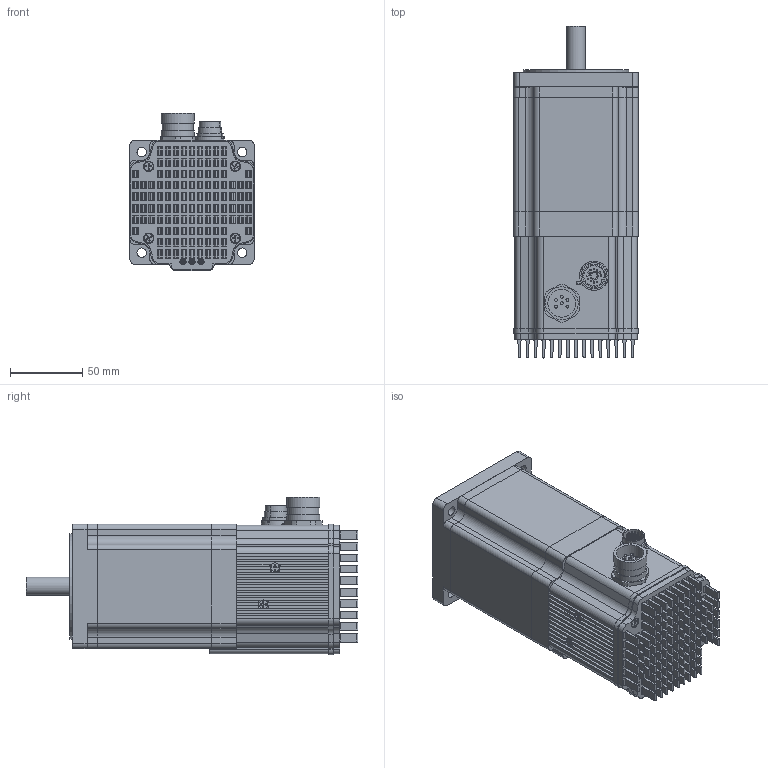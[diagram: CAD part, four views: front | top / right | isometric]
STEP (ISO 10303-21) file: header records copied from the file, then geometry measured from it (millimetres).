
FILE_DESCRIPTION(/* description */ ('Alibre Inc.'),/* implementation_level */ '2;1');
FILE_NAME(/* name */ 'export0',/* time_stamp */ '2018-01-31T12:48:37-08:00',/* author */ (''),/* organization */ (''),/* preprocessor_version */ 'ST-DEVELOPER v14',/* originating_system */ 'Alibre',/* authorisation */ '');
FILE_SCHEMA (('AUTOMOTIVE_DESIGN'));
Length unit declared in the file: centimetre
Bounding box: 86.12 x 229.57 x 108.94 mm (x, y, z)
Volume: 876584.6 mm3; surface area: 189166.2 mm2
Topology: 37 solids, 38 shells, 3052 faces, 8120 edges, 5349 vertices
Faces by surface type: plane 1947, cylinder 979, cone 44, torus 43, sphere 26, bspline 13
Full cylindrical faces by diameter (mm): 0.483 x3, 0.61 x2, 1 x19, 1.981 x6, 2.156 x5, 2.54 x3, 2.616 x8, 2.718 x3, 3.175 x11, 3.81 x3, 4.089 x8, 6.5 x4, 9.525 x2, 9.982 x2, 12.7 x1, 17.094 x1, 19.152 x1, 20.218 x2, 20.32 x1, 21.412 x1, 22.86 x2, 25.298 x1, 44.323 x1, 52.324 x1, 73.025 x1
Entity records: 82255 total; most frequent: ORIENTED_EDGE 15174, CARTESIAN_POINT 14425, DIRECTION 11642, EDGE_CURVE 7587, VERTEX_POINT 5084, VECTOR 4502, LINE 4502, AXIS2_PLACEMENT_3D 4267
